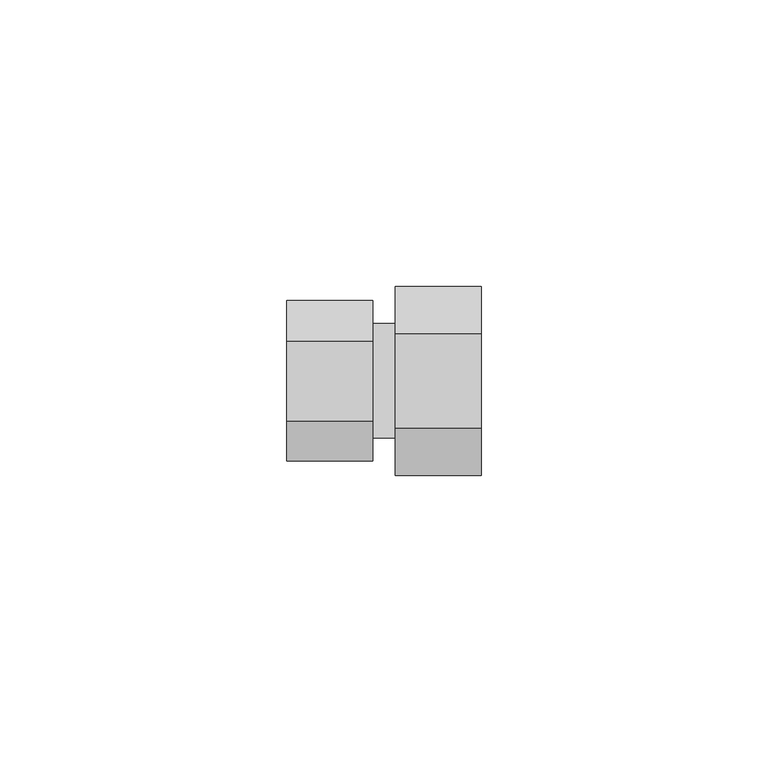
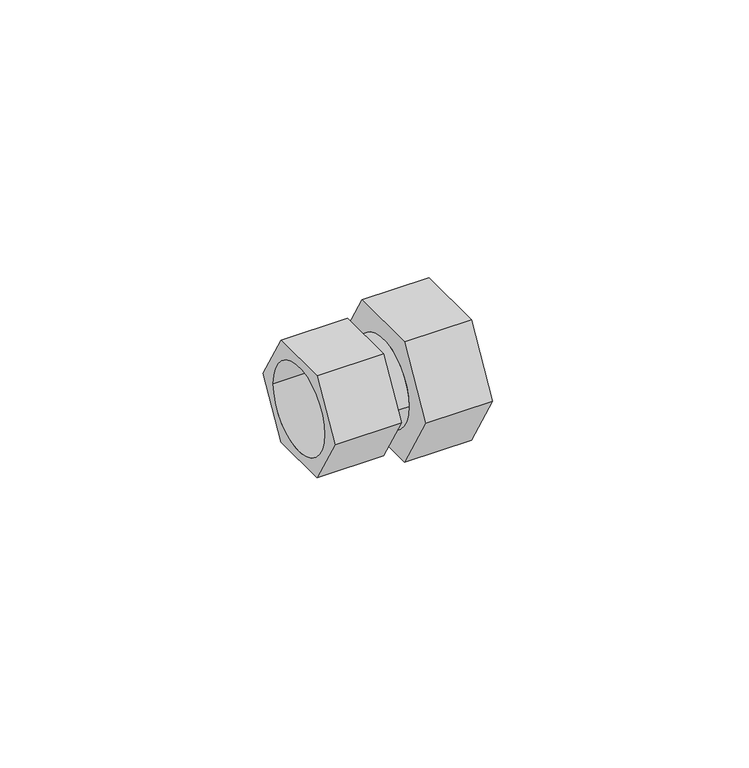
"""IFC4 building model written with IfcOpenShell, lengths in millimetres: pipe fitting geometry, БИР ПЕКС_КМП_Соединитель_Резьба_Внутренняя : Соединитель прямой с внутренней резьбой_КМП."""

from ifc_helpers import new_model, si_unit, point, frame, origin, origin_2d, place, context, project, spatial, polyline, circle_curve, trimmed, segment, composite_curve, outline, extrude, source, transform, mapped, element, save


def pipe_fitting_2b076fd0(model_context):
    return source(origin(), model_context, "Body", "SweptSolid", [
        extrude(outline(polyline([(-7.0, -12.1243557), (-14.0, 0.0), (-7.0, 12.1243557), (7.0, 12.1243557), (14.0, 0.0), (7.0, -12.1243557), (-7.0, -12.1243557)]), holes=[composite_curve([segment(trimmed(circle_curve(origin_2d(), 10.0), [point((-10.0, 0.0))], [point((10.0, 0.0))], True, "CARTESIAN"), True, "CONTINUOUS"), segment(trimmed(circle_curve(origin_2d(), 10.0), [point((10.0, 0.0))], [point((-10.0, 0.0))], True, "CARTESIAN"), True, "CONTINUOUS")], self_intersect=False)]), frame((-19.0, 0.0, 0.0), z_axis=(1.0, 0.0, 0.0), x_axis=(0.0, 1.0, 0.0)), (0.0, 0.0, 1.0), 15.0),
        extrude(outline(polyline([(-8.25, -14.2894192), (-16.5, 0.0), (-8.25, 14.2894192), (8.25, 14.2894192), (16.5, 0.0), (8.25, -14.2894192), (-8.25, -14.2894192)]), holes=[composite_curve([segment(trimmed(circle_curve(origin_2d(), 10.0), [point((-10.0, 0.0))], [point((10.0, 0.0))], True, "CARTESIAN"), True, "CONTINUOUS"), segment(trimmed(circle_curve(origin_2d(), 10.0), [point((10.0, 0.0))], [point((-10.0, 0.0))], True, "CARTESIAN"), True, "CONTINUOUS")], self_intersect=False)]), frame((0.0, 0.0, 0.0), z_axis=(1.0, 0.0, 0.0), x_axis=(0.0, 1.0, 0.0)), (0.0, 0.0, 1.0), 15.0),
        extrude(outline(composite_curve([segment(trimmed(circle_curve(origin_2d(), 10.0), [point((-10.0, 0.0))], [point((10.0, 0.0))], False, "CARTESIAN"), True, "CONTINUOUS"), segment(trimmed(circle_curve(origin_2d(), 10.0), [point((10.0, 0.0))], [point((-10.0, 0.0))], False, "CARTESIAN"), True, "CONTINUOUS")], self_intersect=False)), frame((-4.0, 0.0, 0.0), z_axis=(1.0, 0.0, 0.0), x_axis=(0.0, 1.0, 0.0)), (0.0, 0.0, 1.0), 4.0),
    ])


if __name__ == "__main__":
    model = new_model("IFC4")
    model_context = context("Model", 3, world=origin())
    ifc_project = project(units=[si_unit("LENGTHUNIT", "METRE", prefix="MILLI")], contexts=[model_context])
    site = spatial("IfcSite", under=ifc_project)
    building = spatial("IfcBuilding", under=site)
    placement = place(None, origin())
    pipe_fitting_shape = pipe_fitting_2b076fd0(model_context)
    element("IfcPipeFitting", 1, ObjectType="БИР ПЕКС_КМП_Соединитель_Резьба_Внутренняя : Соединитель прямой с внутренней резьбой_КМП", at=placement, inside=building, context=model_context, shape_type="MappedRepresentation", body=[
        mapped(pipe_fitting_shape, transform((0.0, 0.0, 0.0), x_axis=(1.0, 0.0, 0.0), y_axis=(0.0, 1.0, 0.0), z_axis=(0.0, 0.0, 1.0))),
    ])
    save(model, "model.ifc")
